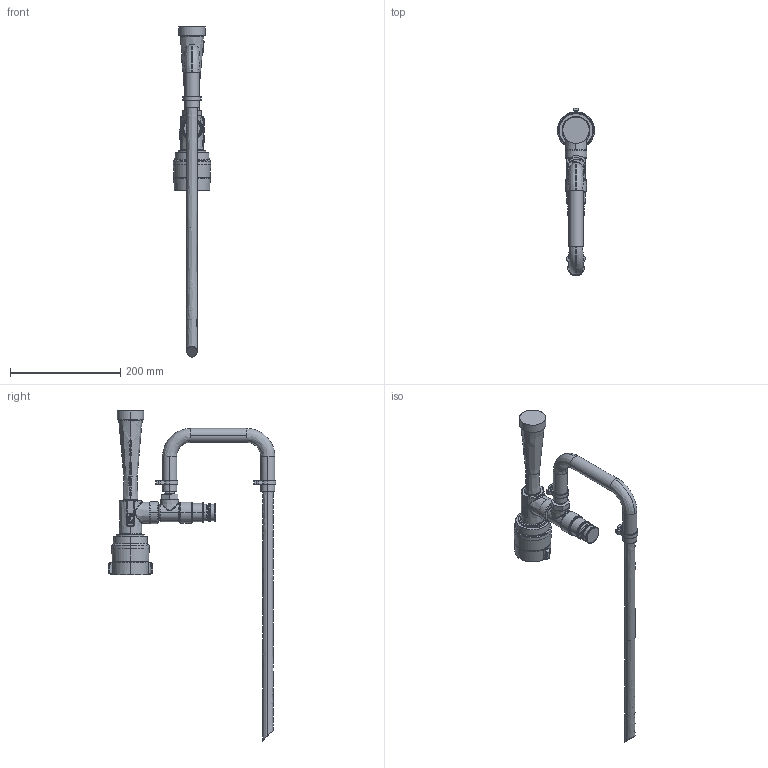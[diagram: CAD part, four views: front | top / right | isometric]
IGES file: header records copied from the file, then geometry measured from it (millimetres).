
Start section: SolidWorks IGES file using analytic representation for surfaces
Global section: file name: C:\plot\models\Z-Mous_225.IGS; native system: SolidWorks 2013; preprocessor: SolidWorks 2013; author: tmott; date: 140430.105726; units: inch
Bounding box: 67.69 x 304.31 x 598.17 mm (x, y, z)
Surface area: 132521.7 mm2 (no closed solid volume)
Topology: 0 solids, 0 shells, 669 faces, 9953 edges, 9936 vertices
Faces by surface type: bspline 470, revolution 199
